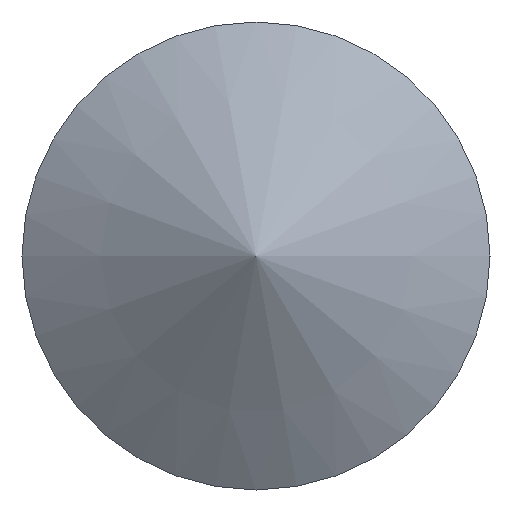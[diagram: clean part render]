
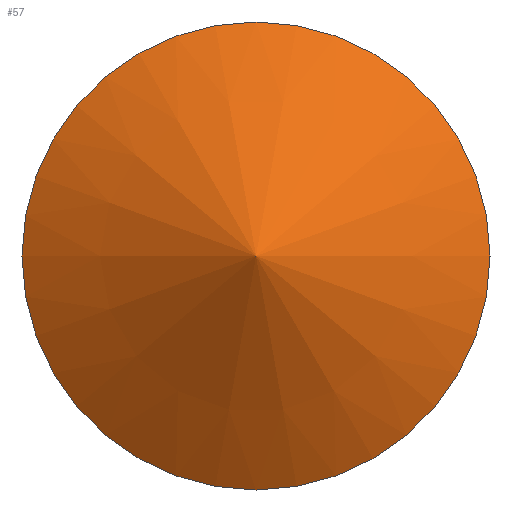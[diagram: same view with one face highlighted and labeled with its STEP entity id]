
A CAD part, left-side view. The second image highlights one B-rep face of the part: STEP entity #57.
In plain terms, the highlighted conical face has half-angle 59 degrees and reference radius 3 mm.
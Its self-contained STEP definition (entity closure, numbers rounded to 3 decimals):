
#15=CONICAL_SURFACE('',#84,3.,1.03);
#19=FACE_OUTER_BOUND('',#22,.T.);
#22=EDGE_LOOP('',(#50,#51,#52,#53));
#24=LINE('',#117,#26);
#26=VECTOR('',#102,3.);
#29=CIRCLE('',#81,6.);
#30=CIRCLE('',#82,6.);
#33=VERTEX_POINT('',#109);
#34=VERTEX_POINT('',#111);
#35=VERTEX_POINT('',#116);
#39=EDGE_CURVE('',#33,#34,#29,.T.);
#40=EDGE_CURVE('',#34,#33,#30,.T.);
#41=EDGE_CURVE('',#33,#35,#24,.T.);
#50=ORIENTED_EDGE('',*,*,#40,.F.);
#51=ORIENTED_EDGE('',*,*,#39,.F.);
#52=ORIENTED_EDGE('',*,*,#41,.T.);
#53=ORIENTED_EDGE('',*,*,#41,.F.);
#57=ADVANCED_FACE('',(#19),#15,.T.);
#81=AXIS2_PLACEMENT_3D('',#112,#94,#95);
#82=AXIS2_PLACEMENT_3D('',#113,#96,#97);
#84=AXIS2_PLACEMENT_3D('',#115,#100,#101);
#94=DIRECTION('center_axis',(1.,0.,0.));
#95=DIRECTION('ref_axis',(0.,0.,-1.));
#96=DIRECTION('center_axis',(1.,0.,0.));
#97=DIRECTION('ref_axis',(0.,0.,-1.));
#100=DIRECTION('center_axis',(1.,0.,0.));
#101=DIRECTION('ref_axis',(0.,1.,0.));
#102=DIRECTION('',(-0.515,0.857,0.));
#109=CARTESIAN_POINT('',(-30.,-6.,0.));
#111=CARTESIAN_POINT('',(-30.,6.,0.));
#112=CARTESIAN_POINT('Origin',(-30.,0.,0.));
#113=CARTESIAN_POINT('Origin',(-30.,0.,0.));
#115=CARTESIAN_POINT('Origin',(-31.803,0.,0.));
#116=CARTESIAN_POINT('',(-33.605,0.,0.));
#117=CARTESIAN_POINT('',(-31.803,-3.,0.));
